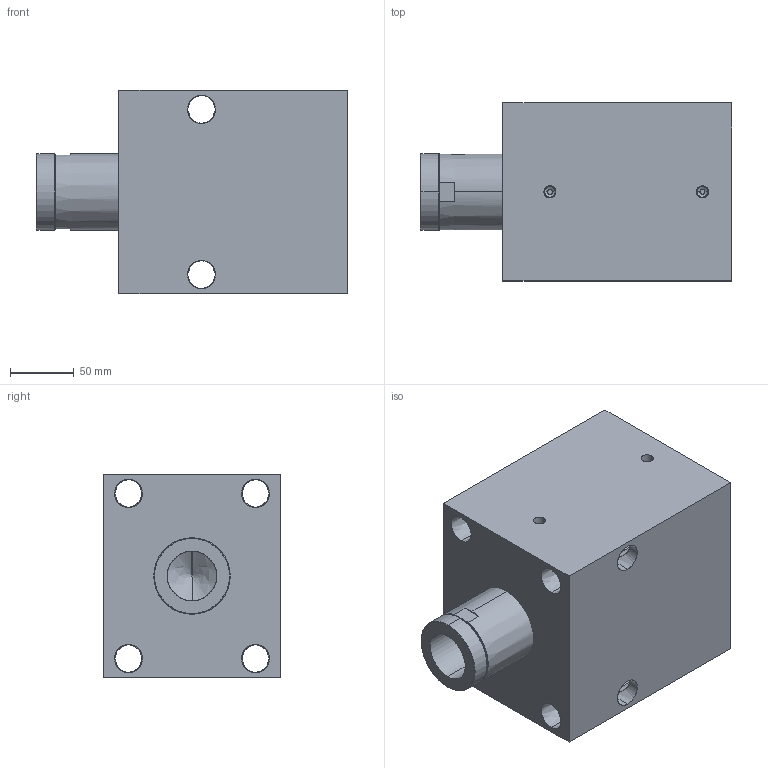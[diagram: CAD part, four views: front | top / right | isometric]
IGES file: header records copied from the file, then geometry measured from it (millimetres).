
Start section: SolidWorks IGES file using analytic representation for surfaces
Global section: file name: C:\Documents and Settings\rajib\Desktop\Rajib\BLOCK CYLINDER HYDRAULIC\0901-0906\IGES 0901-0908\0904.IGS; native system: SolidWorks 2007; preprocessor: SolidWorks 2007; author: rajib; date: 110121.165606; units: millimetre
Bounding box: 245 x 140 x 160 mm (x, y, z)
Surface area: 244925.3 mm2 (no closed solid volume)
Topology: 0 solids, 0 shells, 80 faces, 2048 edges, 2046 vertices
Faces by surface type: revolution 58, bspline 22
